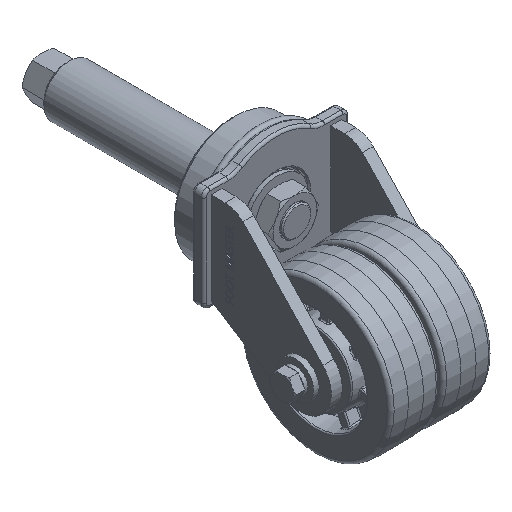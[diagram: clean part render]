
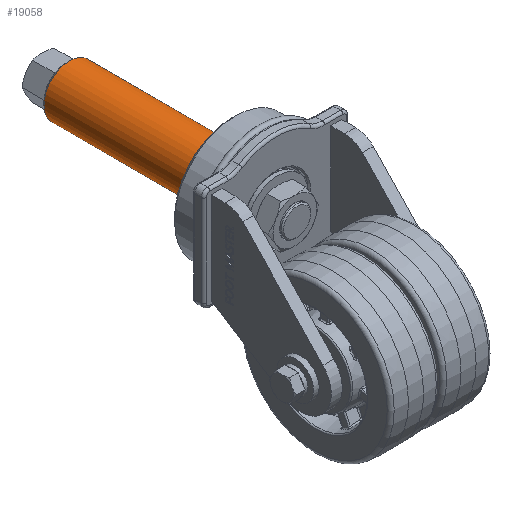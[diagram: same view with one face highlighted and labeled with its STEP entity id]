
A CAD part, isometric view. The second image highlights one B-rep face of the part: STEP entity #19058.
In plain terms, the highlighted cylindrical face has radius 21 mm (diameter 42 mm), a full revolution.
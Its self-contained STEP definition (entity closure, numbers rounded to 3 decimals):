
#598=CYLINDRICAL_SURFACE('',#21017,21.);
#1573=LINE('',#46183,#2563);
#2563=VECTOR('',#25862,21.);
#4976=FACE_OUTER_BOUND('',#6227,.T.);
#6227=EDGE_LOOP('',(#17665,#17666,#17667,#17668,#17669));
#7412=CIRCLE('',#21012,21.);
#7413=CIRCLE('',#21014,21.);
#7415=CIRCLE('',#21016,21.);
#9129=VERTEX_POINT('',#46172);
#9130=VERTEX_POINT('',#46175);
#9131=VERTEX_POINT('',#46176);
#11982=EDGE_CURVE('',#9129,#9129,#7412,.T.);
#11983=EDGE_CURVE('',#9130,#9131,#7413,.T.);
#11986=EDGE_CURVE('',#9131,#9130,#7415,.T.);
#11987=EDGE_CURVE('',#9130,#9129,#1573,.T.);
#17665=ORIENTED_EDGE('',*,*,#11983,.F.);
#17666=ORIENTED_EDGE('',*,*,#11987,.T.);
#17667=ORIENTED_EDGE('',*,*,#11982,.F.);
#17668=ORIENTED_EDGE('',*,*,#11987,.F.);
#17669=ORIENTED_EDGE('',*,*,#11986,.F.);
#19058=ADVANCED_FACE('',(#4976),#598,.T.);
#21012=AXIS2_PLACEMENT_3D('',#46173,#25849,#25850);
#21014=AXIS2_PLACEMENT_3D('',#46177,#25853,#25854);
#21016=AXIS2_PLACEMENT_3D('',#46181,#25858,#25859);
#21017=AXIS2_PLACEMENT_3D('',#46182,#25860,#25861);
#25849=DIRECTION('center_axis',(0.,-1.,0.));
#25850=DIRECTION('ref_axis',(-1.,0.,0.));
#25853=DIRECTION('center_axis',(0.,1.,0.));
#25854=DIRECTION('ref_axis',(1.,0.,0.));
#25858=DIRECTION('center_axis',(0.,1.,0.));
#25859=DIRECTION('ref_axis',(1.,0.,0.));
#25860=DIRECTION('center_axis',(0.,1.,0.));
#25861=DIRECTION('ref_axis',(-1.,0.,0.));
#25862=DIRECTION('',(0.,-1.,0.));
#46172=CARTESIAN_POINT('',(21.,31.,0.));
#46173=CARTESIAN_POINT('Origin',(0.,31.,0.));
#46175=CARTESIAN_POINT('',(21.,158.,0.));
#46176=CARTESIAN_POINT('',(-21.,158.,0.));
#46177=CARTESIAN_POINT('Origin',(0.,158.,0.));
#46181=CARTESIAN_POINT('Origin',(0.,158.,0.));
#46182=CARTESIAN_POINT('Origin',(0.,31.,0.));
#46183=CARTESIAN_POINT('',(21.,31.,0.));
